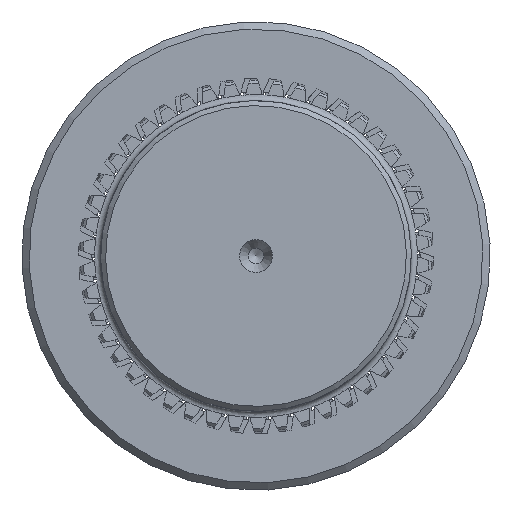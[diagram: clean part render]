
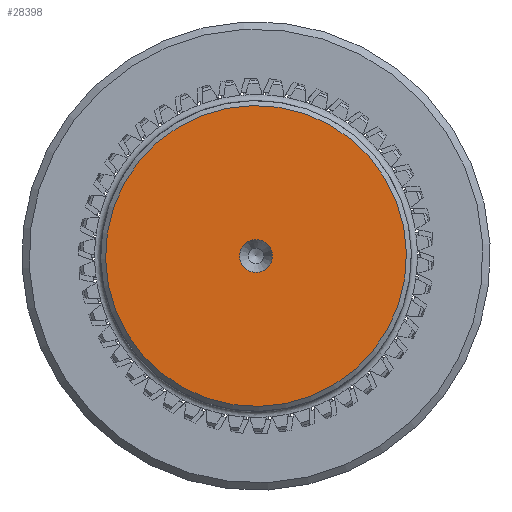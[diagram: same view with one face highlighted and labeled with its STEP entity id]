
A CAD part, left-side view. The second image highlights one B-rep face of the part: STEP entity #28398.
In plain terms, the highlighted planar face has unit normal (-1, 0, 0).
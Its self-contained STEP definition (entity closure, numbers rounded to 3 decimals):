
#27975=CARTESIAN_POINT('',(-0.921,32.272,0.0));
#27976=VERTEX_POINT('',#27975);
#27977=CARTESIAN_POINT('',(-0.921,35.622,0.0));
#27978=DIRECTION('',(-1.0,0.0,0.0));
#27979=DIRECTION('',(0.0,-1.0,0.0));
#27980=AXIS2_PLACEMENT_3D('',#27977,#27978,#27979);
#27981=CIRCLE('',#27980,3.35);
#27982=EDGE_CURVE('',#27976,#27976,#27981,.T.);
#28372=CARTESIAN_POINT('',(-0.921,5.122,0.0));
#28373=VERTEX_POINT('',#28372);
#28374=CARTESIAN_POINT('',(-0.921,35.622,0.0));
#28375=DIRECTION('',(-1.0,0.0,0.0));
#28376=DIRECTION('',(0.0,-1.0,0.0));
#28377=AXIS2_PLACEMENT_3D('',#28374,#28375,#28376);
#28378=CIRCLE('',#28377,30.5);
#28379=EDGE_CURVE('',#28373,#28373,#28378,.T.);
#28387=CARTESIAN_POINT('',(-0.921,18.697,0.0));
#28388=DIRECTION('',(-1.0,0.0,0.0));
#28389=DIRECTION('',(0.0,0.0,1.0));
#28390=AXIS2_PLACEMENT_3D('',#28387,#28388,#28389);
#28391=PLANE('',#28390);
#28392=ORIENTED_EDGE('',*,*,#28379,.T.);
#28393=EDGE_LOOP('',(#28392));
#28394=FACE_OUTER_BOUND('',#28393,.T.);
#28395=ORIENTED_EDGE('',*,*,#27982,.F.);
#28396=EDGE_LOOP('',(#28395));
#28397=FACE_BOUND('',#28396,.T.);
#28398=ADVANCED_FACE('',(#28394,#28397),#28391,.T.);
